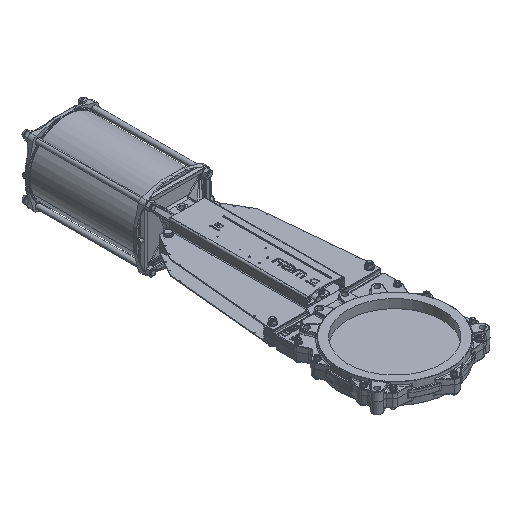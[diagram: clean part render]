
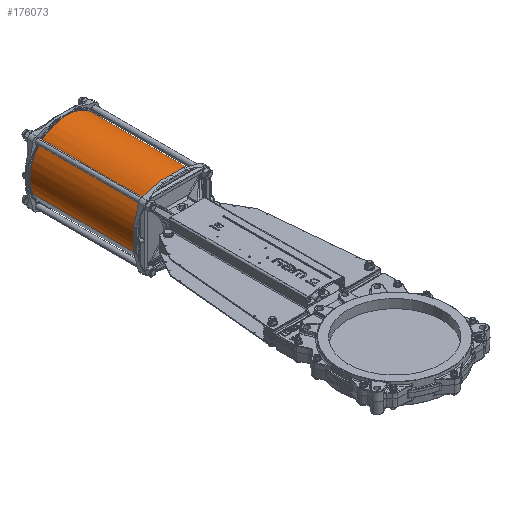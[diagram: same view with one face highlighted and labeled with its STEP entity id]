
A CAD part, isometric view. The second image highlights one B-rep face of the part: STEP entity #176073.
In plain terms, the highlighted cylindrical face has radius 156 mm (diameter 312 mm), a partial arc.
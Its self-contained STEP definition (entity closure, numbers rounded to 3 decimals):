
#4150 = VECTOR ( 'NONE', #212639, 1000. ) ;
#6430 = VERTEX_POINT ( 'NONE', #190436 ) ;
#7082 = DIRECTION ( 'NONE',  ( 0., -1., 0. ) ) ;
#15315 = ORIENTED_EDGE ( 'NONE', *, *, #70923, .F. ) ;
#17356 = AXIS2_PLACEMENT_3D ( 'NONE', #84146, #199067, #100708 ) ;
#20069 = VERTEX_POINT ( 'NONE', #108878 ) ;
#23052 = AXIS2_PLACEMENT_3D ( 'NONE', #105448, #7082, #122046 ) ;
#29876 = CARTESIAN_POINT ( 'NONE',  ( 142.311, 950., 63.653 ) ) ;
#31980 = CIRCLE ( 'NONE', #23052, 156. ) ;
#33201 = DIRECTION ( 'NONE',  ( 0.912, 0., 0.41 ) ) ;
#35822 = AXIS2_PLACEMENT_3D ( 'NONE', #128746, #65462, #33201 ) ;
#38639 = DIRECTION ( 'NONE',  ( 0., -1., 0. ) ) ;
#38982 = ORIENTED_EDGE ( 'NONE', *, *, #56344, .T. ) ;
#49005 = EDGE_CURVE ( 'NONE', #155542, #20069, #203159, .T. ) ;
#51828 = CYLINDRICAL_SURFACE ( 'NONE', #35822, 156. ) ;
#55722 = EDGE_CURVE ( 'NONE', #121562, #20069, #169346, .T. ) ;
#56344 = EDGE_CURVE ( 'NONE', #6430, #155542, #31980, .T. ) ;
#64968 = CARTESIAN_POINT ( 'NONE',  ( -142.311, 1401., -64.153 ) ) ;
#65462 = DIRECTION ( 'NONE',  ( 0., -1., 0. ) ) ;
#70923 = EDGE_CURVE ( 'NONE', #6430, #121562, #173625, .T. ) ;
#72416 = FACE_OUTER_BOUND ( 'NONE', #178636, .T. ) ;
#84146 = CARTESIAN_POINT ( 'NONE',  ( 0., 950., -0.25 ) ) ;
#87396 = ORIENTED_EDGE ( 'NONE', *, *, #55722, .F. ) ;
#100708 = DIRECTION ( 'NONE',  ( 0.912, 0., 0.41 ) ) ;
#105448 = CARTESIAN_POINT ( 'NONE',  ( 0., 1401., -0.25 ) ) ;
#108878 = CARTESIAN_POINT ( 'NONE',  ( -142.311, 950., -64.153 ) ) ;
#115782 = VECTOR ( 'NONE', #38639, 1000. ) ;
#121562 = VERTEX_POINT ( 'NONE', #29876 ) ;
#122046 = DIRECTION ( 'NONE',  ( 0., 0., 1. ) ) ;
#128746 = CARTESIAN_POINT ( 'NONE',  ( 0., 1193.019, -0.25 ) ) ;
#137014 = CARTESIAN_POINT ( 'NONE',  ( -142.311, 1193.019, -64.153 ) ) ;
#151544 = CARTESIAN_POINT ( 'NONE',  ( 142.311, 1193.019, 63.653 ) ) ;
#155542 = VERTEX_POINT ( 'NONE', #64968 ) ;
#169346 = CIRCLE ( 'NONE', #17356, 156. ) ;
#173625 = LINE ( 'NONE', #151544, #4150 ) ;
#176073 = ADVANCED_FACE ( 'NONE', ( #72416 ), #51828, .T. ) ;
#178636 = EDGE_LOOP ( 'NONE', ( #38982, #180036, #87396, #15315 ) ) ;
#180036 = ORIENTED_EDGE ( 'NONE', *, *, #49005, .T. ) ;
#190436 = CARTESIAN_POINT ( 'NONE',  ( 142.311, 1401., 63.653 ) ) ;
#199067 = DIRECTION ( 'NONE',  ( 0., -1., 0. ) ) ;
#203159 = LINE ( 'NONE', #137014, #115782 ) ;
#212639 = DIRECTION ( 'NONE',  ( 0., -1., 0. ) ) ;
